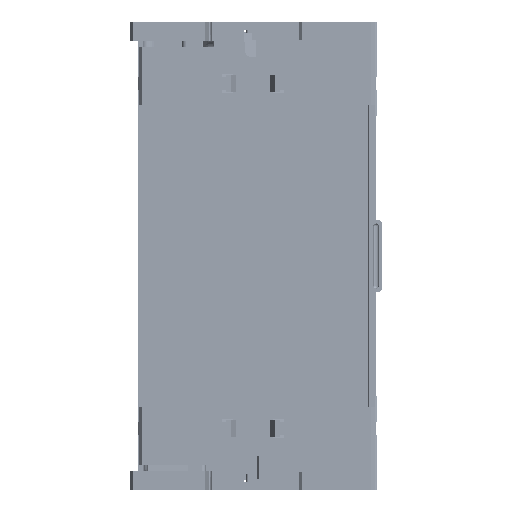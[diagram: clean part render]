
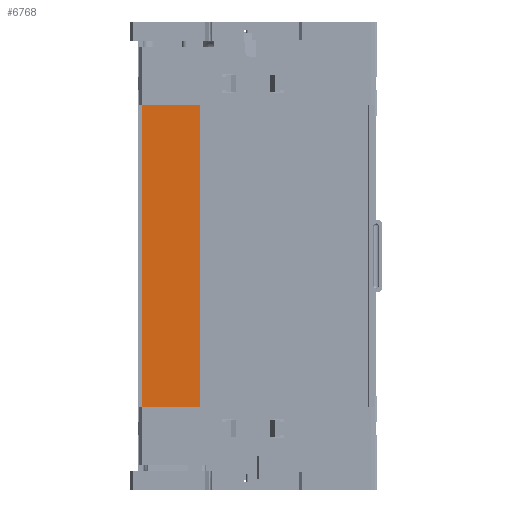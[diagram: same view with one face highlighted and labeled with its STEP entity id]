
A CAD part, front view. The second image highlights one B-rep face of the part: STEP entity #6768.
In plain terms, the highlighted planar face has unit normal (0, -1, 0).
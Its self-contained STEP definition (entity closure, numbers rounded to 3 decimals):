
#6768=ADVANCED_FACE('',(#11120),#8778,.T.);
#8778=PLANE('',#54633);
#11120=FACE_OUTER_BOUND('',#14405,.T.);
#14405=EDGE_LOOP('',(#28337,#28338,#28339,#28340));
#28337=ORIENTED_EDGE('',*,*,#40500,.F.);
#28338=ORIENTED_EDGE('',*,*,#40502,.T.);
#28339=ORIENTED_EDGE('',*,*,#40503,.T.);
#28340=ORIENTED_EDGE('',*,*,#40504,.F.);
#33451=VERTEX_POINT('',#243796);
#33452=VERTEX_POINT('',#243798);
#33453=VERTEX_POINT('',#243802);
#33454=VERTEX_POINT('',#243804);
#40500=EDGE_CURVE('',#33451,#33452,#45682,.T.);
#40502=EDGE_CURVE('',#33451,#33453,#45684,.T.);
#40503=EDGE_CURVE('',#33453,#33454,#45685,.T.);
#40504=EDGE_CURVE('',#33452,#33454,#45686,.T.);
#45682=LINE('',#243797,#50865);
#45684=LINE('',#243801,#50867);
#45685=LINE('',#243803,#50868);
#45686=LINE('',#243805,#50869);
#50865=VECTOR('',#66732,1.);
#50867=VECTOR('',#66736,1.);
#50868=VECTOR('',#66737,1.);
#50869=VECTOR('',#66738,1.);
#54633=AXIS2_PLACEMENT_3D('',#243806,#66739,#66740);
#66732=DIRECTION('',(0.,0.,1.));
#66736=DIRECTION('',(1.,0.,0.));
#66737=DIRECTION('',(0.,0.,1.));
#66738=DIRECTION('',(1.,0.,0.));
#66739=DIRECTION('',(0.,-1.,0.));
#66740=DIRECTION('',(0.,0.,1.));
#243796=CARTESIAN_POINT('',(-37.385,-66.399,6.207));
#243797=CARTESIAN_POINT('',(-37.385,-66.399,-8.293));
#243798=CARTESIAN_POINT('',(-37.385,-66.399,115.907));
#243801=CARTESIAN_POINT('',(-38.585,-66.399,6.207));
#243802=CARTESIAN_POINT('',(-16.235,-66.399,6.207));
#243803=CARTESIAN_POINT('',(-16.235,-66.399,-8.293));
#243804=CARTESIAN_POINT('',(-16.235,-66.399,115.907));
#243805=CARTESIAN_POINT('',(-38.585,-66.399,115.907));
#243806=CARTESIAN_POINT('',(-38.585,-66.399,-8.293));
